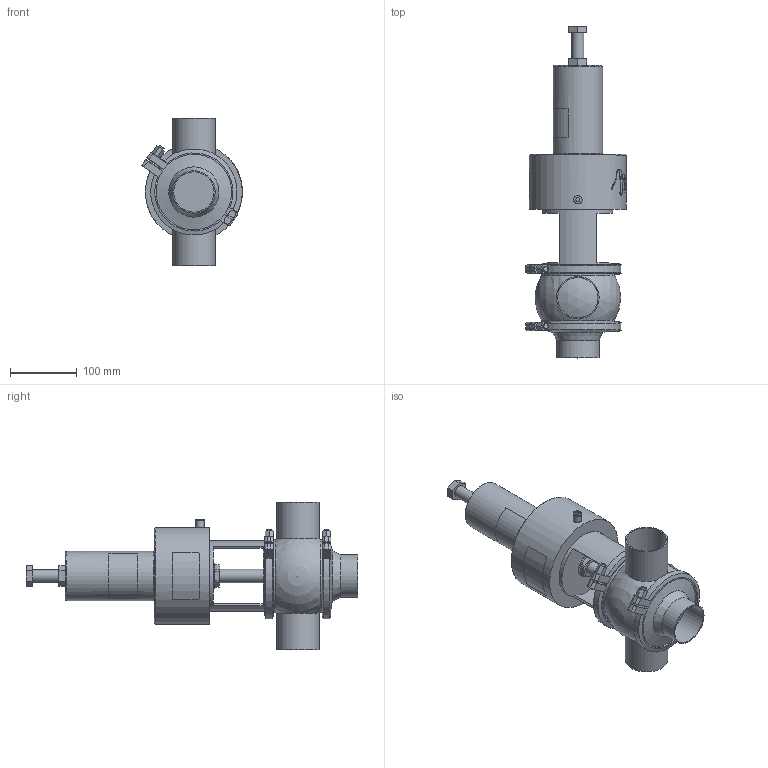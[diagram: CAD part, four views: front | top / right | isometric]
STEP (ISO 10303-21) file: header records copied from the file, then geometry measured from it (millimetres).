
FILE_DESCRIPTION (( 'STEP AP214' ), '1' );
FILE_NAME ('INNOVA J T W OD 2½_10.245.16.0002.STEP', '2024-08-08T08:04:02', ( '' ), ( '' ), 'SwSTEP 2.0', 'SolidWorks 2023', '' );
FILE_SCHEMA (( 'AUTOMOTIVE_DESIGN' ));
Length unit declared in the file: millimetre
Products named in the file (6): 10.240.15.0001_DN 065; 10.247.15.0001_OD 2½"; INNOVA J T W OD 2½_10.245.16.0002; 10.240.15.0007_OD 2½"; 10.240.15.0010_DN 065; 10.245.15.0001_T3 SE NC_DN 065
Assembly tree (6 placements, depth 2):
  INNOVA J T W OD 2½_10.245.16.0002
    10.240.15.0007_OD 2½"
    10.247.15.0001_OD 2½"
    10.240.15.0010_DN 065
    10.245.15.0001_T3 SE NC_DN 065
    10.240.15.0001_DN 065  x2
Bounding box: 150.65 x 496.5 x 220 mm (x, y, z)
Volume: 3317472 mm3; surface area: 357355.4 mm2
Topology: 6 solids, 6 shells, 381 faces, 1008 edges, 664 vertices
Faces by surface type: plane 191, cylinder 82, bspline 78, cone 26, sphere 3, torus 1
Full cylindrical faces by diameter (mm): 6.15 x1, 8 x4, 10.5 x1, 12.5 x2, 18 x1, 20 x1, 36.5 x1, 60.2 x3, 63.5 x3, 74 x1, 105 x1, 109 x2, 121 x4, 145 x1
Entity records: 20030 total; most frequent: CARTESIAN_POINT 11061, ORIENTED_EDGE 1582, DIRECTION 1195, EDGE_CURVE 791, VERTEX_POINT 544, AXIS2_PLACEMENT_3D 445, EDGE_LOOP 393, FACE_OUTER_BOUND 349
